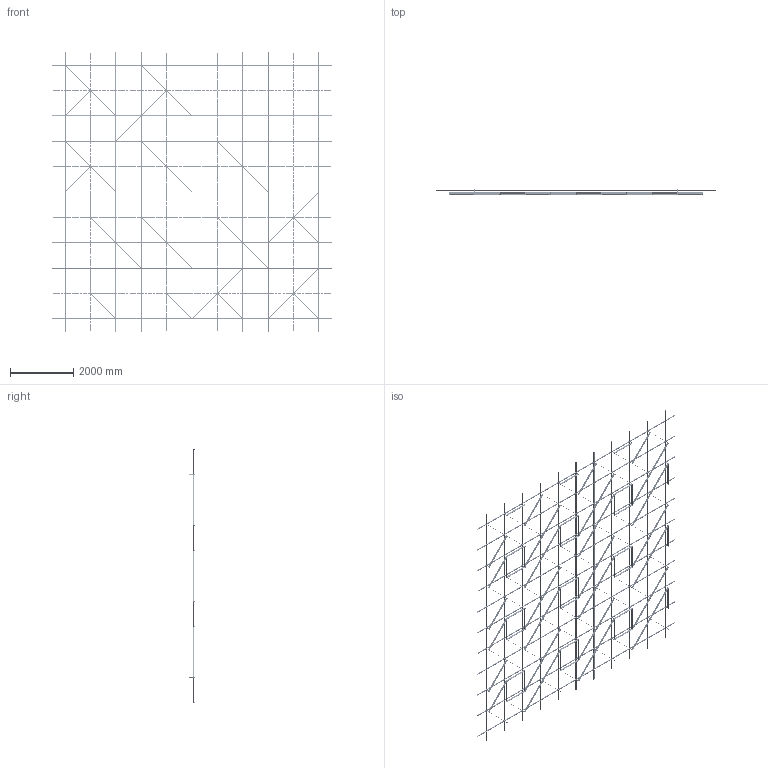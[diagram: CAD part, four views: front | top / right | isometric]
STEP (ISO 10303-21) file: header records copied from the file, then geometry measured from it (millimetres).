
FILE_DESCRIPTION (( 'STEP AP203' ), '1' );
FILE_NAME ('17 ìèíè ñ ïñ.step', '2025-11-25T13:00:13', ( '' ), ( '' ), 'SwSTEP 2.0', 'SolidWorks 2020', '' );
FILE_SCHEMA (( 'CONFIG_CONTROL_DESIGN' ));
Length unit declared in the file: millimetre
Products named in the file (5): 17 ìèíè ñ ïñ; SS.SEMA.2400 - Ñèìà-ïðîôèëü — îáðåçàí 1600; SS.SEMA.2400 - Ñèìà-ïðîôèëü; Ñèñòåìà â çîíå 8000õ8000; Var17
Assembly tree (90 placements, depth 3):
  17 ìèíè ñ ïñ
    Ñèñòåìà â çîíå 8000õ8000
      SS.SEMA.2400 - Ñèìà-ïðîôèëü  x66
      SS.SEMA.2400 - Ñèìà-ïðîôèëü — îáðåçàí 1600  x22
    Var17
Bounding box: 8800 x 158 x 8800 mm (x, y, z)
Volume: 74720246.5 mm3; surface area: 44380341.8 mm2
Topology: 637 solids, 637 shells, 18962 faces, 51656 edges, 33968 vertices
Faces by surface type: cylinder 12690, plane 6272
Entity records: 71329 total; most frequent: CARTESIAN_POINT 15912, DIRECTION 10606, ORIENTED_EDGE 10160, EDGE_CURVE 5080, AXIS2_PLACEMENT_3D 5054, VERTEX_POINT 3376, EDGE_LOOP 2968, FACE_OUTER_BOUND 2806
